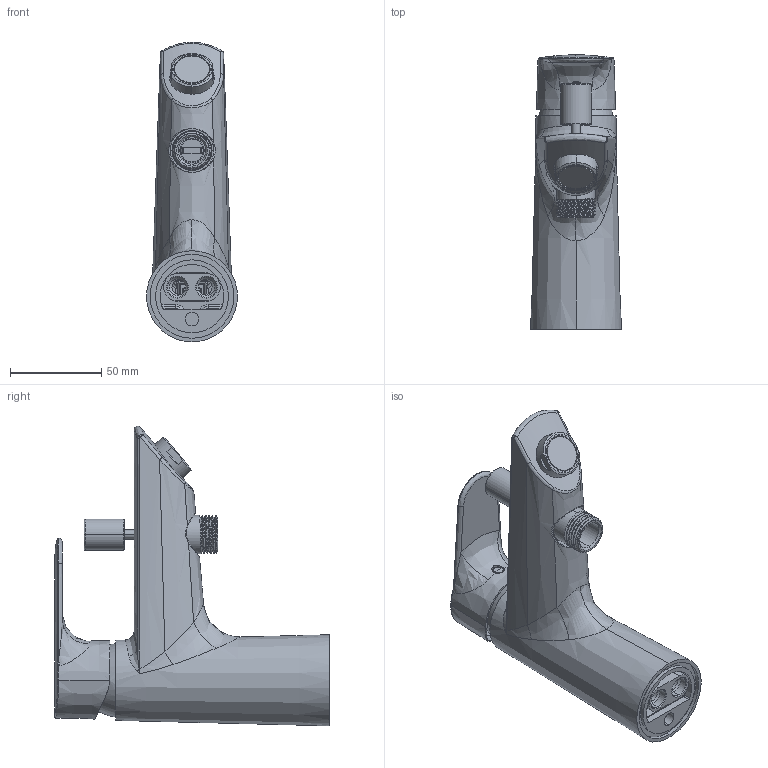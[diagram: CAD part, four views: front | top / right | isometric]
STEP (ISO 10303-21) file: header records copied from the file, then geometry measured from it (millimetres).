
FILE_DESCRIPTION((''),'2;1');
FILE_NAME('F3884_9CR_ASM','2017-10-02T',('ivanv'),(''),'CREO PARAMETRIC BY PTC INC, 2016260','CREO PARAMETRIC BY PTC INC, 2016260','');
FILE_SCHEMA(('CONFIG_CONTROL_DESIGN'));
Length unit declared in the file: millimetre
Products named in the file (11): 3784_2CRO_LAVABO_BORDOVASCA_00; 4618TAM_CAPPUCCIO_ABS_4617_01; 5767_AERATORE_M24X1; 50_9733_1_50_9732_2; 50_9748_1_50_9751_1; 5789SF_DEV_S_FERMO_PORT-VALV_ASM; 6641_POM_DEV_VASCA_S4; 4360CRO; 7384_BOTTONE_CROMATO_D_5_5; A3884_9CR_ASM; F3884_9CR_ASM
Assembly tree (10 placements, depth 4):
  F3884_9CR_ASM
    A3884_9CR_ASM
      3784_2CRO_LAVABO_BORDOVASCA_00
      4618TAM_CAPPUCCIO_ABS_4617_01
      5767_AERATORE_M24X1
      5789SF_DEV_S_FERMO_PORT-VALV_ASM
        50_9733_1_50_9732_2
        50_9748_1_50_9751_1
      6641_POM_DEV_VASCA_S4
      4360CRO
      7384_BOTTONE_CROMATO_D_5_5
Bounding box: 50 x 150.5 x 164.48 mm (x, y, z)
Volume: 165271.3 mm3; surface area: 102728.5 mm2
Topology: 8 solids, 8 shells, 1511 faces, 3827 edges, 2382 vertices
Faces by surface type: plane 731, bspline 338, cylinder 231, cone 106, torus 56, sphere 49
Entity records: 75438 total; most frequent: CARTESIAN_POINT 42250, ORIENTED_EDGE 7638, DIRECTION 5711, EDGE_CURVE 3819, VERTEX_POINT 2382, AXIS2_PLACEMENT_3D 2038, VECTOR 1635, LINE 1635
